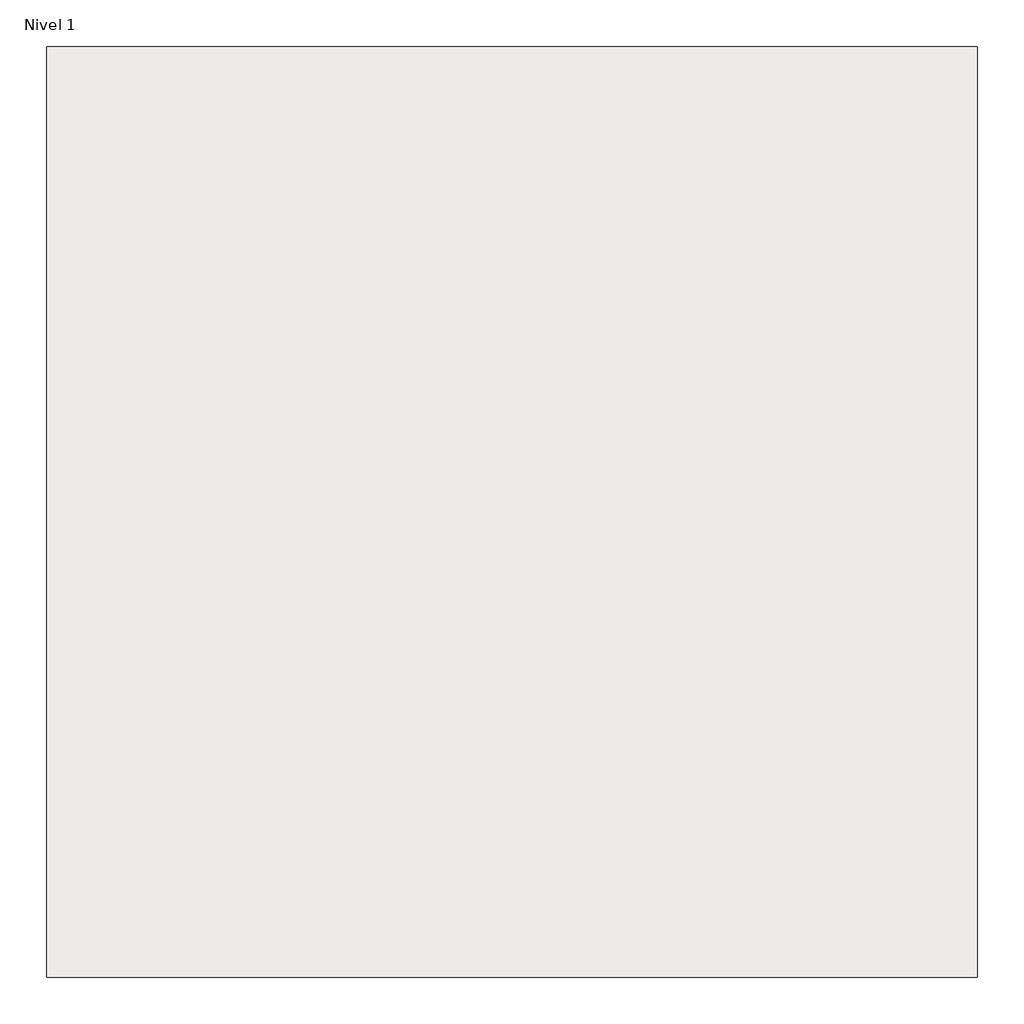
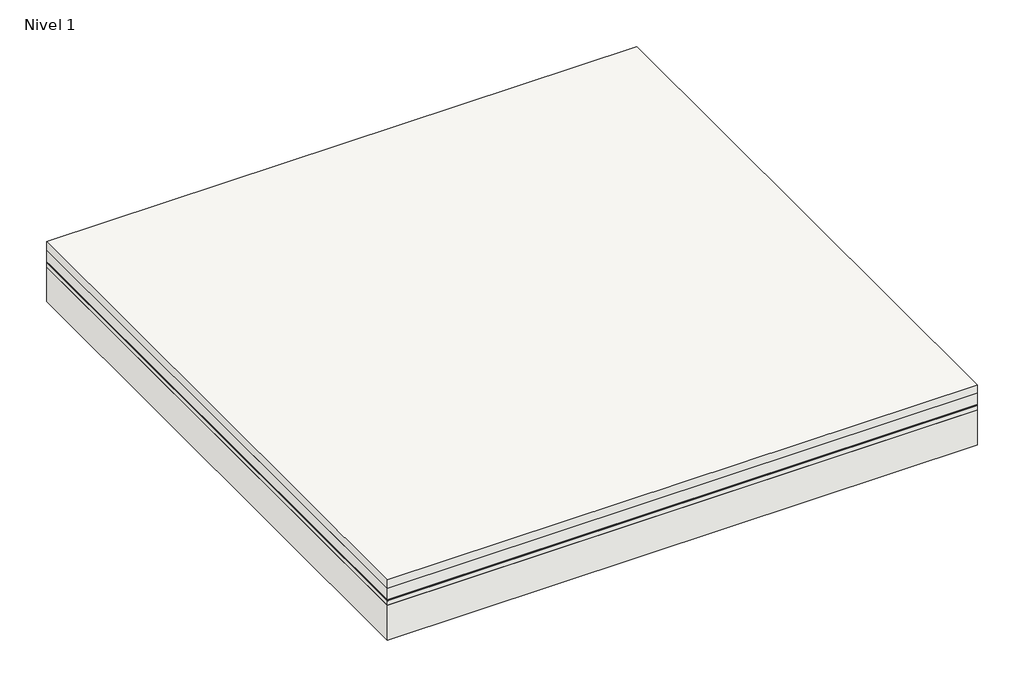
# One storey: 1 roof.
"""IFC4 building model written with IfcOpenShell, lengths in millimetres."""

from ifc_helpers import new_model, si_unit, frame, origin, origin_with_axes, place, context, project, spatial, polyline, outline, extrude, element, save

model = new_model("IFC4")

# Units and contexts
model_context = context("Model", 3, world=origin())
ifc_project = project(units=[si_unit("LENGTHUNIT", "METRE", prefix="MILLI")], contexts=[model_context])

# Site, building, storey
site = spatial("IfcSite", under=ifc_project)
building = spatial("IfcBuilding", under=site)
storey = spatial("IfcBuildingStorey", under=building, Name="Nivel 1", Elevation=0.0)

# Roof
placement = place(None, origin())
element("IfcRoof", 1, ObjectType="RehabEnergCubiertas-CubPlanaTransitable_SoladoFlotanteInverlosa_RHCP_01", at=placement, inside=storey, context=model_context, shape_type="SweptSolid", body=[
    extrude(outline(polyline([(-2544.9527165, -3086.8428917), (-6544.9527165, -3086.8428917), (-6544.9527165, 913.1571083), (-2544.9527165, 913.1571083), (-2544.9527165, -3086.8428917)])), frame((0.0, 0.0, 370.0), z_axis=(0.0, 0.0, 1.0), x_axis=(1.0, 0.0, 0.0)), (0.0, 0.0, 1.0), 60.0),
    extrude(outline(polyline([(-2544.9527165, -3086.8428917), (-6544.9527165, -3086.8428917), (-6544.9527165, 913.1571083), (-2544.9527165, 913.1571083), (-2544.9527165, -3086.8428917)])), frame((0.0, 0.0, 290.0), z_axis=(0.0, 0.0, 1.0), x_axis=(1.0, 0.0, 0.0)), (0.0, 0.0, 1.0), 80.0),
    extrude(outline(polyline([(-2544.9527165, -3086.8428917), (-6544.9527165, -3086.8428917), (-6544.9527165, 913.1571083), (-2544.9527165, 913.1571083), (-2544.9527165, -3086.8428917)])), frame((0.0, 0.0, 288.0), z_axis=(0.0, 0.0, 1.0), x_axis=(1.0, 0.0, 0.0)), (0.0, 0.0, 1.0), 2.0),
    extrude(outline(polyline([(-2544.9527165, -3086.8428917), (-6544.9527165, -3086.8428917), (-6544.9527165, 913.1571083), (-2544.9527165, 913.1571083), (-2544.9527165, -3086.8428917)])), frame((0.0, 0.0, 284.0), z_axis=(0.0, 0.0, 1.0), x_axis=(1.0, 0.0, 0.0)), (0.0, 0.0, 1.0), 4.0),
    extrude(outline(polyline([(-2544.9527165, -3086.8428917), (-6544.9527165, -3086.8428917), (-6544.9527165, 913.1571083), (-2544.9527165, 913.1571083), (-2544.9527165, -3086.8428917)])), frame((0.0, 0.0, 282.0), z_axis=(0.0, 0.0, 1.0), x_axis=(1.0, 0.0, 0.0)), (0.0, 0.0, 1.0), 2.0),
    extrude(outline(polyline([(-2544.9527165, -3086.8428917), (-6544.9527165, -3086.8428917), (-6544.9527165, 913.1571083), (-2544.9527165, 913.1571083), (-2544.9527165, -3086.8428917)])), frame((0.0, 0.0, 280.0), z_axis=(0.0, 0.0, 1.0), x_axis=(1.0, 0.0, 0.0)), (0.0, 0.0, 1.0), 2.0),
    extrude(outline(polyline([(-2544.9527165, -3086.8428917), (-6544.9527165, -3086.8428917), (-6544.9527165, 913.1571083), (-2544.9527165, 913.1571083), (-2544.9527165, -3086.8428917)])), frame((0.0, 0.0, 250.0), z_axis=(0.0, 0.0, 1.0), x_axis=(1.0, 0.0, 0.0)), (0.0, 0.0, 1.0), 30.0),
    extrude(outline(polyline([(-2544.9527165, -3086.8428917), (-6544.9527165, -3086.8428917), (-6544.9527165, 913.1571083), (-2544.9527165, 913.1571083), (-2544.9527165, -3086.8428917)])), origin_with_axes(), (0.0, 0.0, 1.0), 250.0),
])

save(model, "model.ifc")
